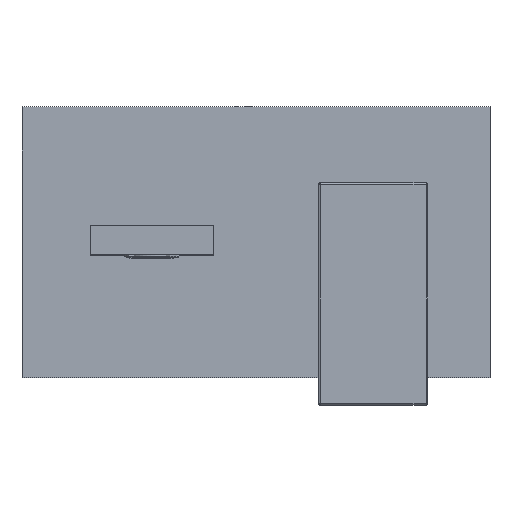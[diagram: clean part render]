
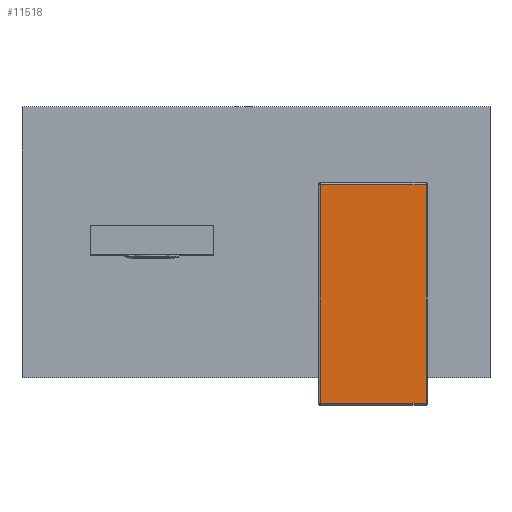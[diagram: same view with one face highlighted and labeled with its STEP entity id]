
A CAD part, top view. The second image highlights one B-rep face of the part: STEP entity #11518.
In plain terms, the highlighted planar face has unit normal (0, 0, 1).
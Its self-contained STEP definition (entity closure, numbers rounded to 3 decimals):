
#37 = EDGE_LOOP ( 'NONE', ( #14871, #24359, #7876, #9194 ) ) ;
#114 = VECTOR ( 'NONE', #7179, 1000. ) ;
#404 = DIRECTION ( 'NONE',  ( 1., 0., 0. ) ) ;
#3539 = CARTESIAN_POINT ( 'NONE',  ( 69.81, 23.347, 32.117 ) ) ;
#4151 = CARTESIAN_POINT ( 'NONE',  ( 26.06, 24.097, 32.117 ) ) ;
#5045 = EDGE_CURVE ( 'NONE', #42087, #43121, #37832, .T. ) ;
#7179 = DIRECTION ( 'NONE',  ( 0., -1., 0. ) ) ;
#7876 = ORIENTED_EDGE ( 'NONE', *, *, #26601, .T. ) ;
#9194 = ORIENTED_EDGE ( 'NONE', *, *, #31126, .T. ) ;
#9223 = VECTOR ( 'NONE', #404, 1000. ) ;
#10549 = DIRECTION ( 'NONE',  ( 0., 1., 0. ) ) ;
#11518 = ADVANCED_FACE ( 'NONE', ( #48896 ), #45171, .T. ) ;
#12037 = VERTEX_POINT ( 'NONE', #26908 ) ;
#14520 = LINE ( 'NONE', #44837, #25944 ) ;
#14551 = CARTESIAN_POINT ( 'NONE',  ( 69.06, -65.403, 32.117 ) ) ;
#14795 = LINE ( 'NONE', #3539, #31166 ) ;
#14871 = ORIENTED_EDGE ( 'NONE', *, *, #42459, .T. ) ;
#17052 = VERTEX_POINT ( 'NONE', #19671 ) ;
#18781 = DIRECTION ( 'NONE',  ( -1., 0., 0. ) ) ;
#19671 = CARTESIAN_POINT ( 'NONE',  ( 26.06, 23.347, 32.117 ) ) ;
#23683 = CARTESIAN_POINT ( 'NONE',  ( 69.81, -65.403, 32.117 ) ) ;
#24073 = CARTESIAN_POINT ( 'NONE',  ( 69.81, 24.097, 32.117 ) ) ;
#24359 = ORIENTED_EDGE ( 'NONE', *, *, #5045, .T. ) ;
#25944 = VECTOR ( 'NONE', #10549, 1000. ) ;
#26601 = EDGE_CURVE ( 'NONE', #43121, #12037, #14520, .T. ) ;
#26908 = CARTESIAN_POINT ( 'NONE',  ( 69.06, 23.347, 32.117 ) ) ;
#29573 = AXIS2_PLACEMENT_3D ( 'NONE', #24073, #31349, #35129 ) ;
#31126 = EDGE_CURVE ( 'NONE', #12037, #17052, #14795, .T. ) ;
#31166 = VECTOR ( 'NONE', #18781, 1000. ) ;
#31349 = DIRECTION ( 'NONE',  ( 0., 0., 1. ) ) ;
#31914 = CARTESIAN_POINT ( 'NONE',  ( 26.06, -65.403, 32.117 ) ) ;
#35129 = DIRECTION ( 'NONE',  ( -1., 0., 0. ) ) ;
#37769 = LINE ( 'NONE', #4151, #114 ) ;
#37832 = LINE ( 'NONE', #23683, #9223 ) ;
#42087 = VERTEX_POINT ( 'NONE', #31914 ) ;
#42459 = EDGE_CURVE ( 'NONE', #17052, #42087, #37769, .T. ) ;
#43121 = VERTEX_POINT ( 'NONE', #14551 ) ;
#44837 = CARTESIAN_POINT ( 'NONE',  ( 69.06, 24.097, 32.117 ) ) ;
#45171 = PLANE ( 'NONE',  #29573 ) ;
#48896 = FACE_OUTER_BOUND ( 'NONE', #37, .T. ) ;
